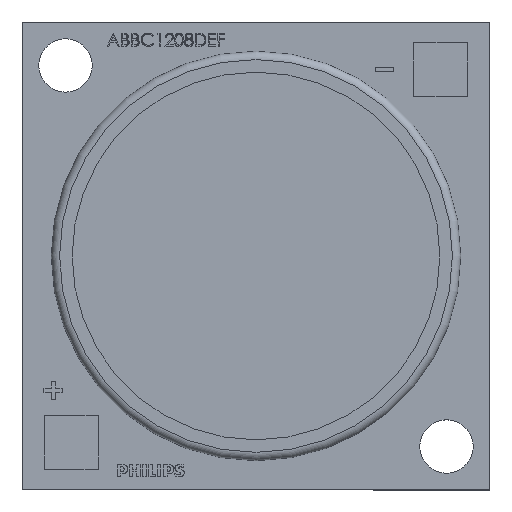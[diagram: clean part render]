
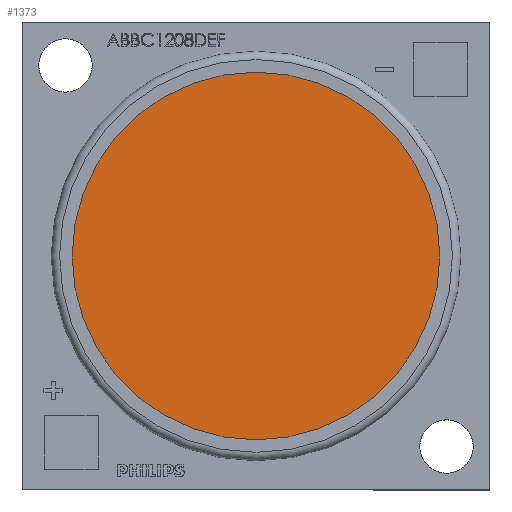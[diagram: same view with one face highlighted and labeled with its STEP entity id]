
A CAD part, top view. The second image highlights one B-rep face of the part: STEP entity #1373.
In plain terms, the highlighted planar face has unit normal (0, 0, 1).
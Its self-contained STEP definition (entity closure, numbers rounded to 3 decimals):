
#904=FACE_OUTER_BOUND('',#2348,.T.);
#1373=ADVANCED_FACE('',(#904),#1775,.T.);
#1775=PLANE('',#9929);
#2348=EDGE_LOOP('',(#4934));
#4934=ORIENTED_EDGE('',*,*,#7096,.F.);
#5803=VERTEX_POINT('',#15443);
#7096=EDGE_CURVE('',#5803,#5803,#9514,.T.);
#9514=CIRCLE('',#9928,11.);
#9928=AXIS2_PLACEMENT_3D('',#15442,#11976,#11977);
#9929=AXIS2_PLACEMENT_3D('',#15444,#11978,#11979);
#11976=DIRECTION('',(0.,0.,-1.));
#11977=DIRECTION('',(1.,0.,0.));
#11978=DIRECTION('',(0.,0.,1.));
#11979=DIRECTION('',(-1.,0.,0.));
#15442=CARTESIAN_POINT('',(14.,14.,1.49));
#15443=CARTESIAN_POINT('',(25.,14.,1.49));
#15444=CARTESIAN_POINT('',(14.,14.,1.49));
